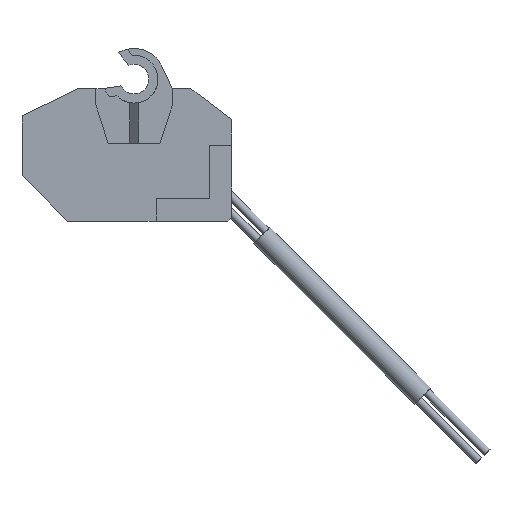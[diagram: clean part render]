
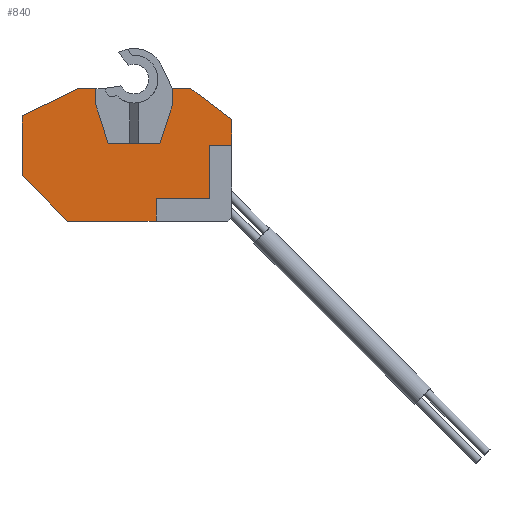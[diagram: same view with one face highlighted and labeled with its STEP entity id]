
A CAD part, left-side view. The second image highlights one B-rep face of the part: STEP entity #840.
In plain terms, the highlighted planar face has unit normal (-1, 0, 0).
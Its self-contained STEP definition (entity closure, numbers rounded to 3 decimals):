
#2 = VERTEX_POINT ( 'NONE', #2542 ) ;
#30 = DIRECTION ( 'NONE',  ( 0., 0., 1. ) ) ;
#56 = VECTOR ( 'NONE', #2188, 1000. ) ;
#66 = ORIENTED_EDGE ( 'NONE', *, *, #2363, .T. ) ;
#81 = VECTOR ( 'NONE', #2880, 1000. ) ;
#140 = EDGE_CURVE ( 'NONE', #457, #2704, #783, .T. ) ;
#150 = DIRECTION ( 'NONE',  ( 0., 0., 1. ) ) ;
#190 = EDGE_CURVE ( 'NONE', #2763, #457, #1224, .T. ) ;
#206 = EDGE_CURVE ( 'NONE', #1929, #3186, #1268, .T. ) ;
#228 = DIRECTION ( 'NONE',  ( 0., -1., 0. ) ) ;
#239 = VERTEX_POINT ( 'NONE', #1603 ) ;
#266 = ORIENTED_EDGE ( 'NONE', *, *, #928, .F. ) ;
#285 = ORIENTED_EDGE ( 'NONE', *, *, #2806, .F. ) ;
#322 = VECTOR ( 'NONE', #1062, 1000. ) ;
#324 = DIRECTION ( 'NONE',  ( 0., -1., 0. ) ) ;
#331 = CARTESIAN_POINT ( 'NONE',  ( -3.35, -12.9, -18.75 ) ) ;
#348 = EDGE_CURVE ( 'NONE', #2763, #1487, #2803, .T. ) ;
#366 = LINE ( 'NONE', #1422, #1064 ) ;
#379 = CARTESIAN_POINT ( 'NONE',  ( -3.35, 5.05, -3.4 ) ) ;
#414 = VERTEX_POINT ( 'NONE', #3170 ) ;
#457 = VERTEX_POINT ( 'NONE', #2099 ) ;
#467 = DIRECTION ( 'NONE',  ( 0., -1., 0. ) ) ;
#479 = VERTEX_POINT ( 'NONE', #1586 ) ;
#484 = EDGE_CURVE ( 'NONE', #2056, #1421, #2999, .T. ) ;
#498 = EDGE_CURVE ( 'NONE', #2056, #3186, #2840, .T. ) ;
#542 = CARTESIAN_POINT ( 'NONE',  ( -3.35, 5.05, -1.25 ) ) ;
#615 = EDGE_CURVE ( 'NONE', #479, #2103, #1584, .T. ) ;
#629 = LINE ( 'NONE', #1018, #2153 ) ;
#684 = CARTESIAN_POINT ( 'NONE',  ( -3.35, -7.5, -1.25 ) ) ;
#715 = EDGE_CURVE ( 'NONE', #1929, #2425, #366, .T. ) ;
#720 = DIRECTION ( 'NONE',  ( -1., 0., 0. ) ) ;
#781 = VECTOR ( 'NONE', #150, 1000. ) ;
#783 = LINE ( 'NONE', #1290, #1987 ) ;
#784 = CARTESIAN_POINT ( 'NONE',  ( -3.35, 14.8, -4.85 ) ) ;
#790 = DIRECTION ( 'NONE',  ( 0., 0., -1. ) ) ;
#796 = CARTESIAN_POINT ( 'NONE',  ( -3.35, 5.05, -3.4 ) ) ;
#800 = ORIENTED_EDGE ( 'NONE', *, *, #190, .F. ) ;
#803 = CARTESIAN_POINT ( 'NONE',  ( -3.35, -12.9, -8.75 ) ) ;
#840 = ADVANCED_FACE ( 'NONE', ( #3221 ), #3044, .T. ) ;
#871 = VECTOR ( 'NONE', #2841, 1000. ) ;
#928 = EDGE_CURVE ( 'NONE', #2704, #414, #3302, .T. ) ;
#1007 = CARTESIAN_POINT ( 'NONE',  ( -3.35, -7.5, -1.25 ) ) ;
#1015 = VERTEX_POINT ( 'NONE', #796 ) ;
#1018 = CARTESIAN_POINT ( 'NONE',  ( -3.35, 3.41, -8.5 ) ) ;
#1062 = DIRECTION ( 'NONE',  ( 0., 0., 1. ) ) ;
#1063 = DIRECTION ( 'NONE',  ( 0., 1., 0. ) ) ;
#1064 = VECTOR ( 'NONE', #3234, 1000. ) ;
#1152 = ORIENTED_EDGE ( 'NONE', *, *, #1266, .F. ) ;
#1172 = ORIENTED_EDGE ( 'NONE', *, *, #2825, .F. ) ;
#1213 = DIRECTION ( 'NONE',  ( 0., 0.799, 0.602 ) ) ;
#1214 = VECTOR ( 'NONE', #2362, 1000. ) ;
#1224 = LINE ( 'NONE', #1832, #2764 ) ;
#1232 = ORIENTED_EDGE ( 'NONE', *, *, #498, .T. ) ;
#1258 = CARTESIAN_POINT ( 'NONE',  ( -3.35, 14.8, -18.75 ) ) ;
#1266 = EDGE_CURVE ( 'NONE', #1015, #2890, #2975, .T. ) ;
#1268 = LINE ( 'NONE', #1626, #2309 ) ;
#1282 = DIRECTION ( 'NONE',  ( 0., -1., 0. ) ) ;
#1290 = CARTESIAN_POINT ( 'NONE',  ( -3.35, -9.9, -18.75 ) ) ;
#1337 = DIRECTION ( 'NONE',  ( 0., 0.897, -0.442 ) ) ;
#1391 = AXIS2_PLACEMENT_3D ( 'NONE', #1258, #720, #467 ) ;
#1420 = LINE ( 'NONE', #542, #1214 ) ;
#1421 = VERTEX_POINT ( 'NONE', #3157 ) ;
#1422 = CARTESIAN_POINT ( 'NONE',  ( -3.35, 8.8, -18.75 ) ) ;
#1487 = VERTEX_POINT ( 'NONE', #1874 ) ;
#1503 = ORIENTED_EDGE ( 'NONE', *, *, #348, .T. ) ;
#1509 = EDGE_CURVE ( 'NONE', #3308, #239, #3251, .T. ) ;
#1525 = VECTOR ( 'NONE', #1639, 1000. ) ;
#1554 = CARTESIAN_POINT ( 'NONE',  ( -3.35, 8.8, -18.75 ) ) ;
#1556 = CARTESIAN_POINT ( 'NONE',  ( -3.35, 14.8, -12.75 ) ) ;
#1583 = ORIENTED_EDGE ( 'NONE', *, *, #140, .F. ) ;
#1584 = LINE ( 'NONE', #2412, #2960 ) ;
#1586 = CARTESIAN_POINT ( 'NONE',  ( -3.35, -5.05, -1.25 ) ) ;
#1603 = CARTESIAN_POINT ( 'NONE',  ( -3.35, -5.05, -3.4 ) ) ;
#1604 = CARTESIAN_POINT ( 'NONE',  ( -3.35, -3.41, -8.5 ) ) ;
#1626 = CARTESIAN_POINT ( 'NONE',  ( -3.35, 14.8, -18.75 ) ) ;
#1628 = VECTOR ( 'NONE', #228, 1000. ) ;
#1639 = DIRECTION ( 'NONE',  ( 0., -0.306, -0.952 ) ) ;
#1688 = EDGE_LOOP ( 'NONE', ( #1152, #285, #2790, #1232, #2972, #2636, #1963, #3192, #266, #1583, #800, #1503, #66, #3053, #1172, #1834, #1730 ) ) ;
#1730 = ORIENTED_EDGE ( 'NONE', *, *, #1782, .F. ) ;
#1782 = EDGE_CURVE ( 'NONE', #2890, #3308, #629, .T. ) ;
#1832 = CARTESIAN_POINT ( 'NONE',  ( -3.35, 14.8, -8.75 ) ) ;
#1834 = ORIENTED_EDGE ( 'NONE', *, *, #1509, .F. ) ;
#1842 = CARTESIAN_POINT ( 'NONE',  ( -3.35, 3.41, -8.5 ) ) ;
#1874 = CARTESIAN_POINT ( 'NONE',  ( -3.35, -12.9, -5.319 ) ) ;
#1912 = CARTESIAN_POINT ( 'NONE',  ( -3.35, -5.05, -3.4 ) ) ;
#1929 = VERTEX_POINT ( 'NONE', #1556 ) ;
#1963 = ORIENTED_EDGE ( 'NONE', *, *, #2865, .T. ) ;
#1987 = VECTOR ( 'NONE', #790, 1000. ) ;
#2037 = EDGE_CURVE ( 'NONE', #414, #2, #2847, .T. ) ;
#2056 = VERTEX_POINT ( 'NONE', #3334 ) ;
#2099 = CARTESIAN_POINT ( 'NONE',  ( -3.35, -9.9, -8.75 ) ) ;
#2103 = VERTEX_POINT ( 'NONE', #1007 ) ;
#2153 = VECTOR ( 'NONE', #1282, 1000. ) ;
#2169 = CARTESIAN_POINT ( 'NONE',  ( -3.35, 14.8, -18.75 ) ) ;
#2188 = DIRECTION ( 'NONE',  ( 0., -0.306, 0.952 ) ) ;
#2303 = CARTESIAN_POINT ( 'NONE',  ( -3.35, -2.9, -18.75 ) ) ;
#2309 = VECTOR ( 'NONE', #30, 1000. ) ;
#2362 = DIRECTION ( 'NONE',  ( 0., 0., -1. ) ) ;
#2363 = EDGE_CURVE ( 'NONE', #1487, #2103, #3072, .T. ) ;
#2412 = CARTESIAN_POINT ( 'NONE',  ( -3.35, 14.8, -1.25 ) ) ;
#2416 = LINE ( 'NONE', #2169, #81 ) ;
#2425 = VERTEX_POINT ( 'NONE', #1554 ) ;
#2542 = CARTESIAN_POINT ( 'NONE',  ( -3.35, -2.9, -18.75 ) ) ;
#2592 = VECTOR ( 'NONE', #1213, 1000. ) ;
#2636 = ORIENTED_EDGE ( 'NONE', *, *, #715, .T. ) ;
#2641 = CARTESIAN_POINT ( 'NONE',  ( -3.35, 14.8, -1.25 ) ) ;
#2704 = VERTEX_POINT ( 'NONE', #2791 ) ;
#2763 = VERTEX_POINT ( 'NONE', #803 ) ;
#2764 = VECTOR ( 'NONE', #1063, 1000. ) ;
#2782 = VECTOR ( 'NONE', #3278, 1000. ) ;
#2790 = ORIENTED_EDGE ( 'NONE', *, *, #484, .F. ) ;
#2791 = CARTESIAN_POINT ( 'NONE',  ( -3.35, -9.9, -15.75 ) ) ;
#2803 = LINE ( 'NONE', #331, #781 ) ;
#2806 = EDGE_CURVE ( 'NONE', #1421, #1015, #1420, .T. ) ;
#2825 = EDGE_CURVE ( 'NONE', #239, #479, #2835, .T. ) ;
#2835 = LINE ( 'NONE', #1912, #322 ) ;
#2840 = LINE ( 'NONE', #3141, #3163 ) ;
#2841 = DIRECTION ( 'NONE',  ( 0., 0., -1. ) ) ;
#2847 = LINE ( 'NONE', #2303, #871 ) ;
#2865 = EDGE_CURVE ( 'NONE', #2425, #2, #2416, .T. ) ;
#2880 = DIRECTION ( 'NONE',  ( 0., -1., 0. ) ) ;
#2890 = VERTEX_POINT ( 'NONE', #1842 ) ;
#2943 = CARTESIAN_POINT ( 'NONE',  ( -3.35, -3.41, -8.5 ) ) ;
#2960 = VECTOR ( 'NONE', #324, 1000. ) ;
#2972 = ORIENTED_EDGE ( 'NONE', *, *, #206, .F. ) ;
#2975 = LINE ( 'NONE', #379, #1525 ) ;
#2999 = LINE ( 'NONE', #2641, #1628 ) ;
#3017 = CARTESIAN_POINT ( 'NONE',  ( -3.35, 14.8, -15.75 ) ) ;
#3044 = PLANE ( 'NONE',  #1391 ) ;
#3053 = ORIENTED_EDGE ( 'NONE', *, *, #615, .F. ) ;
#3072 = LINE ( 'NONE', #684, #2592 ) ;
#3141 = CARTESIAN_POINT ( 'NONE',  ( -3.35, 7.5, -1.25 ) ) ;
#3157 = CARTESIAN_POINT ( 'NONE',  ( -3.35, 5.05, -1.25 ) ) ;
#3163 = VECTOR ( 'NONE', #1337, 1000. ) ;
#3170 = CARTESIAN_POINT ( 'NONE',  ( -3.35, -2.9, -15.75 ) ) ;
#3186 = VERTEX_POINT ( 'NONE', #784 ) ;
#3192 = ORIENTED_EDGE ( 'NONE', *, *, #2037, .F. ) ;
#3221 = FACE_OUTER_BOUND ( 'NONE', #1688, .T. ) ;
#3234 = DIRECTION ( 'NONE',  ( 0., -0.707, -0.707 ) ) ;
#3251 = LINE ( 'NONE', #2943, #56 ) ;
#3278 = DIRECTION ( 'NONE',  ( 0., 1., 0. ) ) ;
#3302 = LINE ( 'NONE', #3017, #2782 ) ;
#3308 = VERTEX_POINT ( 'NONE', #1604 ) ;
#3334 = CARTESIAN_POINT ( 'NONE',  ( -3.35, 7.5, -1.25 ) ) ;
